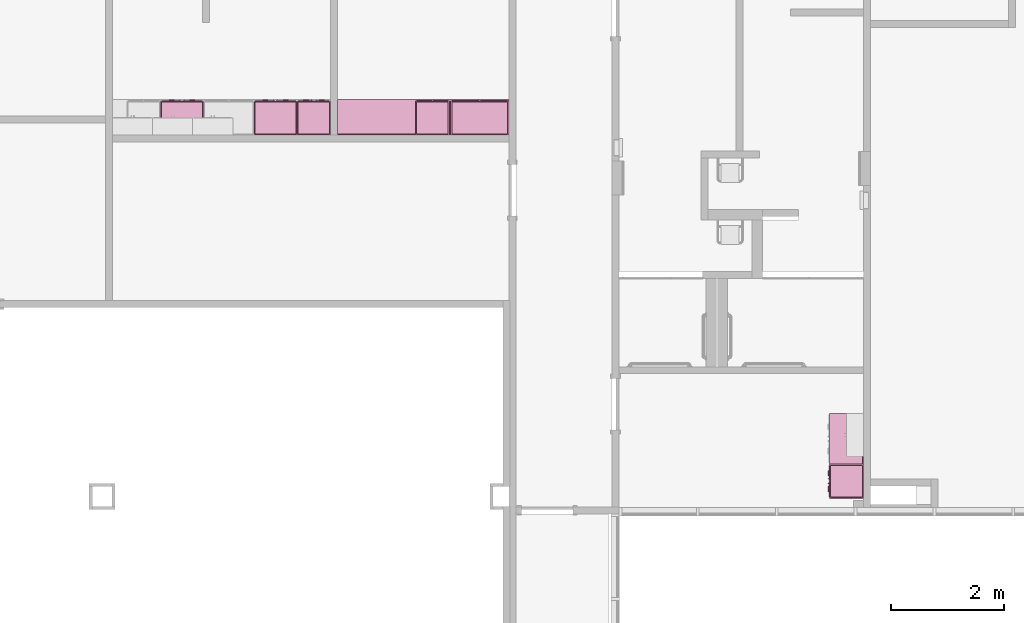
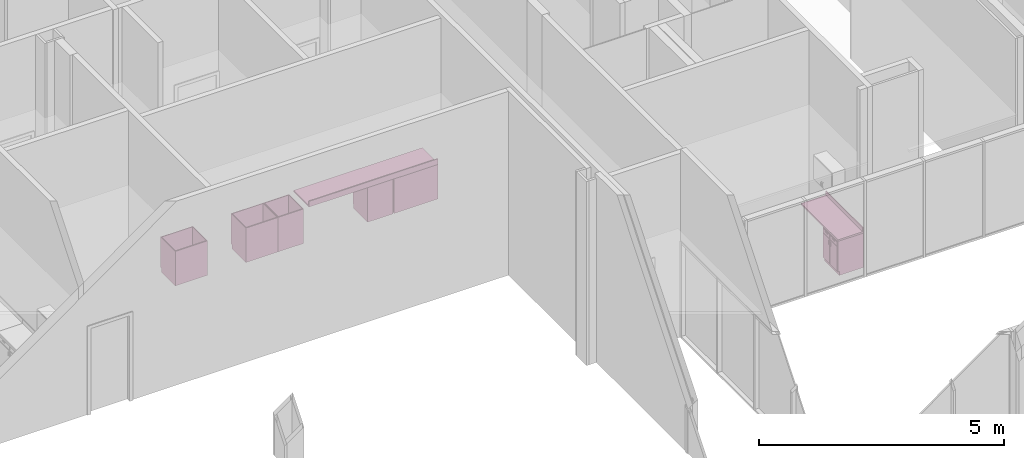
# One storey, part 39 of 45: 8 furnishings, 1 opening.
"""IFC2X3 building model written with IfcOpenShell, lengths in metres."""

from ifc_helpers import new_model, entity, si_unit, converted_unit, frame, frame_2d, origin, origin_2d_with_axis, place, context, project, spatial, polyline, circle_curve, parameter, trimmed, segment, composite_curve, rectangle, outline, extrude, face_set, surface_model, source, transform, mapped, type_object, type_shapes, element, save


model = new_model("IFC2X3")

# Units and contexts
model_context = context("Model", 3, precision=1e-09, world=origin())
plan_context = context("Plan", 3, precision=1e-09, world=origin())
ifc_project = project(units=[si_unit("LENGTHUNIT", "METRE"), si_unit("AREAUNIT", "SQUARE_METRE"), si_unit("VOLUMEUNIT", "CUBIC_METRE"), converted_unit("PLANEANGLEUNIT", "DEGREE", entity("IfcRatioMeasure", 0.01745329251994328), si_unit("PLANEANGLEUNIT", "RADIAN"), dimensions=[0, 0, 0, 0, 0, 0, 0]), si_unit("TIMEUNIT", "SECOND")], contexts=[model_context, plan_context])

# Site, building, storey, space
site_placement = place(None, origin())
site = spatial("IfcSite", under=ifc_project, at=site_placement, Name="Default", CompositionType="ELEMENT")
building_placement = place(site_placement, origin())
building = spatial("IfcBuilding", under=site, at=building_placement, CompositionType="ELEMENT")
storey_placement = place(building_placement, frame((0.0, 0.0, 4.570000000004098)))
storey = spatial("IfcBuildingStorey", under=building, at=storey_placement, Name="Second Floor", CompositionType="ELEMENT", Elevation=4.570000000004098)
space_1_placement = place(storey_placement, origin())
space_1 = spatial("IfcSpace", under=storey, at=space_1_placement, Name="2C22", CompositionType="ELEMENT", InteriorOrExteriorSpace="INTERNAL")

# Furnishing
furniture_type_1 = type_object("IfcFurnitureType", Name="600mm", AssemblyPlace="NOTDEFINED")
shared_shape_1 = source(origin(), model_context, "Body", "SurfaceModel", [
    surface_model("IfcFaceBasedSurfaceModel", [(0.5809499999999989, 0.0444500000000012, 0.86000000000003), (0.5809499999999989, 0.0444500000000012, 0.09999999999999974), (0.01905000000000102, 0.0444500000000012, 0.09999999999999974), (0.01905000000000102, 0.0444500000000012, 0.86000000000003), (0.5999999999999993, 0.02540000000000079, 0.8600000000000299), (0.0, 0.02540000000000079, 0.8600000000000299), (0.5999999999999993, 0.02540000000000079, 0.09999999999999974), (0.0, 0.02540000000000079, 0.0999999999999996), (0.01905000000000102, 0.6063499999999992, 0.86000000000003), (0.01905000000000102, 0.6063499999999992, 0.09999999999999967), (0.01905000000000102, 0.06040000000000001, 0.09999999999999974), (0.0, 0.6253999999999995, 0.8600000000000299), (0.0, 0.6254000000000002, 0.0), (0.0, 0.06040000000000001, 0.0), (0.0, 0.06040000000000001, 0.09999999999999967), (0.5809499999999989, 0.6063499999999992, 0.86000000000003), (0.5809499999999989, 0.6063499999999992, 0.09999999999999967), (0.5999999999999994, 0.6253999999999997, 0.8600000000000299), (0.5999999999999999, 0.6253999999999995, 0.0), (0.5809499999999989, 0.06040000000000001, 0.09999999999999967), (0.5999999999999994, 0.06040000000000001, 0.09999999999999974), (0.5999999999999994, 0.06040000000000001, 0.0), (0.2103250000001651, 0.0, 0.8155500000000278), (0.2103250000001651, 0.0, 0.8028500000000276), (0.1087250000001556, 0.0, 0.8028500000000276), (0.1087250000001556, 0.0, 0.8155500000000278), (0.4912750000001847, 0.0, 0.8155500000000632), (0.4912750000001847, 0.0, 0.8028500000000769), (0.3896750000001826, 0.0, 0.8028500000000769), (0.3896750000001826, 0.0, 0.8155500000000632), (0.2650750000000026, 0.0, 0.6822000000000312), (0.2650750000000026, 0.0, 0.5806000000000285), (0.2523750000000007, 0.0, 0.5806000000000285), (0.2523750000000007, 0.0, 0.6822000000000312), (0.3476249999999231, 0.0, 0.6822000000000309), (0.3476249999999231, 0.0, 0.5806000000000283), (0.3349249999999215, 0.0, 0.5806000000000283), (0.3349249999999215, 0.0, 0.6822000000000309), (0.2103250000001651, 0.0127000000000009, 0.8155500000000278), (0.2103250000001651, 0.0127000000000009, 0.8028500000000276), (0.1087250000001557, 0.01270000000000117, 0.8028500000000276), (0.1087250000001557, 0.01270000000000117, 0.8155500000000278), (0.4912750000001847, 0.01269999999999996, 0.8155500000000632), (0.4912750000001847, 0.01269999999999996, 0.8028500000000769), (0.3896750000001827, 0.01270000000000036, 0.8028500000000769), (0.3896750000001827, 0.01270000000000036, 0.8155500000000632), (0.2650750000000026, 0.01270000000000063, 0.6822000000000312), (0.2650750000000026, 0.01270000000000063, 0.5806000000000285), (0.2523750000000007, 0.01270000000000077, 0.5806000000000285), (0.2523750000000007, 0.01270000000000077, 0.6822000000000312), (0.3476249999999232, 0.0127000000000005, 0.6822000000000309), (0.3476249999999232, 0.0127000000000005, 0.5806000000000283), (0.3349249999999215, 0.0127000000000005, 0.5806000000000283), (0.3349249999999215, 0.0127000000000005, 0.6822000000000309), (0.2904749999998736, 0.01270000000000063, 0.8409500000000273), (0.2904749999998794, 0.01270000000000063, 0.7393500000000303), (0.01905000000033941, 0.01270000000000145, 0.7393500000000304), (0.01905000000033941, 0.01270000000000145, 0.8409500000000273), (0.5809500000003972, 0.01269999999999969, 0.8409500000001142), (0.5809500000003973, 0.01269999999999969, 0.7393500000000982), (0.3095249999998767, 0.0127000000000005, 0.7393500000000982), (0.309524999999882, 0.0127000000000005, 0.8409500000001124), (0.2904749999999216, 0.01270000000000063, 0.7203000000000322), (0.290474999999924, 0.01270000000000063, 0.1190499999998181), (0.01905000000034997, 0.01270000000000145, 0.1190499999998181), (0.01905000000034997, 0.01270000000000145, 0.7203000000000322), (0.5809500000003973, 0.01269999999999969, 0.7203000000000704), (0.5809500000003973, 0.01269999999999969, 0.1190499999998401), (0.3095249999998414, 0.0127000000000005, 0.1190499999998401), (0.3095249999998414, 0.0127000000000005, 0.7203000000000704), (0.2904749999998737, 0.02540000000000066, 0.8409500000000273), (0.2904749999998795, 0.02540000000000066, 0.7393500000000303), (0.01905000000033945, 0.02540000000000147, 0.7393500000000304), (0.01905000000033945, 0.02540000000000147, 0.8409500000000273), (0.5809500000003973, 0.02539999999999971, 0.8409500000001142), (0.5809500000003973, 0.02539999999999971, 0.7393500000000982), (0.3095249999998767, 0.02540000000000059, 0.7393500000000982), (0.309524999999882, 0.02540000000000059, 0.8409500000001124), (0.2904749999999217, 0.02540000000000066, 0.7203000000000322), (0.290474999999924, 0.02540000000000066, 0.1190499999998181), (0.01905000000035, 0.02540000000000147, 0.1190499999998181), (0.01905000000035, 0.02540000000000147, 0.7203000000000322), (0.5809500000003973, 0.02539999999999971, 0.7203000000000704), (0.5809500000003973, 0.02539999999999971, 0.1190499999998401), (0.3095249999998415, 0.02540000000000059, 0.1190499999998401), (0.3095249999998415, 0.02540000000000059, 0.7203000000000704), (0.580949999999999, 0.6063499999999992, 0.1190499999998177), (0.580949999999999, 0.04445000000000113, 0.1190499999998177), (0.01905000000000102, 0.04445000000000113, 0.1190499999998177), (0.01905000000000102, 0.6063499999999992, 0.1190499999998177), (0.580949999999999, 0.6063499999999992, 0.09999999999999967), (0.580949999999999, 0.04445000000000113, 0.09999999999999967), (0.01905000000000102, 0.04445000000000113, 0.09999999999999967)], [face_set([[[0, 1, 2, 3]], [[0, 4, 5, 3]], [[4, 6, 7, 5]], [[2, 1, 6, 7]], [[3, 8, 9, 10, 2]], [[5, 11, 8, 3]], [[7, 5, 11, 12, 13, 14]], [[2, 7, 14, 10]], [[8, 15, 16, 9]], [[11, 17, 15, 8]], [[12, 11, 17, 18]], [[1, 19, 16, 15, 0]], [[0, 15, 17, 4]], [[4, 6, 20, 21, 18, 17]], [[6, 1, 19, 20]], [[10, 9, 16, 19]], [[18, 21, 13, 12]], [[13, 14, 10, 19, 20, 21]]]), face_set([[[22, 23, 24, 25]], [[26, 27, 28, 29]], [[30, 31, 32, 33]], [[34, 35, 36, 37]], [[38, 39, 40, 41]], [[42, 43, 44, 45]], [[46, 47, 48, 49]], [[50, 51, 52, 53]], [[25, 41, 38, 22]], [[24, 40, 41, 25]], [[23, 24, 40, 39]], [[22, 23, 39, 38]], [[29, 45, 42, 26]], [[28, 44, 45, 29]], [[27, 28, 44, 43]], [[26, 27, 43, 42]], [[33, 49, 46, 30]], [[32, 48, 49, 33]], [[31, 32, 48, 47]], [[30, 31, 47, 46]], [[37, 53, 50, 34]], [[36, 52, 53, 37]], [[35, 36, 52, 51]], [[34, 35, 51, 50]]]), face_set([[[54, 55, 56, 57]], [[58, 59, 60, 61]], [[62, 63, 64, 65]], [[66, 67, 68, 69]], [[70, 71, 72, 73]], [[74, 75, 76, 77]], [[78, 79, 80, 81]], [[82, 83, 84, 85]], [[57, 73, 70, 54]], [[56, 57, 73, 72]], [[55, 56, 72, 71]], [[54, 55, 71, 70]], [[61, 77, 74, 58]], [[60, 76, 77, 61]], [[59, 60, 76, 75]], [[58, 59, 75, 74]], [[65, 81, 78, 62]], [[64, 65, 81, 80]], [[63, 64, 80, 79]], [[62, 63, 79, 78]], [[69, 85, 82, 66]], [[68, 84, 85, 69]], [[67, 68, 84, 83]], [[66, 67, 83, 82]]]), face_set([[[86, 87, 88, 89]], [[90, 91, 92, 9]], [[89, 86, 90, 9]], [[88, 89, 9, 92]], [[87, 91, 92, 88]], [[86, 87, 91, 90]]])]),
])
type_shapes(furniture_type_1, [shared_shape_1])
furnishing_1_placement = place(space_1_placement, frame((-27.77540000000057, 35.61499999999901, 0.0), z_axis=(0.0, 0.0, 1.0), x_axis=(0.0, -1.0, 0.0)))
element("IfcFurnishingElement", 1, at=furnishing_1_placement, inside=space_1, type_object=furniture_type_1, Name="M_Base Cabinet-Double Door & 2 Drawer:600mm:600mm", ObjectType="600mm", context=model_context, shape_type="MappedRepresentation", body=[
    mapped(shared_shape_1, transform((0.0, 0.0, 0.0), scale=1.0)),
])

# Space
space_2_placement = place(storey_placement, origin())
space_2 = spatial("IfcSpace", under=storey, at=space_2_placement, Name="2C10", CompositionType="ELEMENT", InteriorOrExteriorSpace="INTERNAL")

# Furnishing
furnishing_2_placement = place(space_2_placement, frame((-34.5000000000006, 42.08383871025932, 0.0), z_axis=(0.0, 0.0, 1.0), x_axis=(-1.0, 0.0, 0.0)))
element("IfcFurnishingElement", 2, at=furnishing_2_placement, inside=space_2, type_object=furniture_type_1, Name="M_Base Cabinet-Double Door & 2 Drawer:600mm:600mm", ObjectType="600mm", context=model_context, shape_type="MappedRepresentation", body=[
    mapped(shared_shape_1, transform((0.0, 0.0, 0.0), scale=1.0)),
])

# Space
space_3_placement = place(storey_placement, origin())
space_3 = spatial("IfcSpace", under=storey, at=space_3_placement, Name="2C12", CompositionType="ELEMENT", InteriorOrExteriorSpace="INTERNAL")

# Furnishings
furnishing_3_placement = place(space_3_placement, frame((-36.6040000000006, 42.08383871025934, 0.0), z_axis=(0.0, 0.0, 1.0), x_axis=(-1.0, 0.0, 0.0)))
element("IfcFurnishingElement", 3, at=furnishing_3_placement, inside=space_3, type_object=furniture_type_1, Name="M_Base Cabinet-Double Door & 2 Drawer:600mm:600mm", ObjectType="600mm", context=model_context, shape_type="MappedRepresentation", body=[
    mapped(shared_shape_1, transform((0.0, 0.0, 0.0), scale=1.0)),
])
furniture_type_2 = type_object("IfcFurnitureType", Name="760mm", AssemblyPlace="NOTDEFINED")
shared_shape_2 = source(origin(), model_context, "Body", "SurfaceModel", [
    surface_model("IfcFaceBasedSurfaceModel", [(0.7409499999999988, 0.04445000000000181, 0.86000000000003), (0.7409499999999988, 0.04445000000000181, 0.09999999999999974), (0.01905000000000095, 0.04445000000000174, 0.09999999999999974), (0.01905000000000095, 0.04445000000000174, 0.86000000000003), (0.7599999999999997, 0.02540000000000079, 0.8600000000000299), (0.0, 0.02540000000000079, 0.8600000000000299), (0.7599999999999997, 0.02540000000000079, 0.09999999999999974), (0.0, 0.02540000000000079, 0.0999999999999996), (0.01905000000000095, 0.6063499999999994, 0.86000000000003), (0.01905000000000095, 0.6063499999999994, 0.09999999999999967), (0.01905000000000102, 0.06040000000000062, 0.09999999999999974), (0.0, 0.6254000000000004, 0.8600000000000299), (0.0, 0.6254000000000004, 0.0), (0.0, 0.06040000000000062, 0.0), (0.0, 0.06040000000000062, 0.09999999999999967), (0.7409499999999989, 0.6063499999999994, 0.86000000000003), (0.7409499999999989, 0.6063499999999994, 0.09999999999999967), (0.7599999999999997, 0.6254000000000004, 0.8600000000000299), (0.7599999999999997, 0.6254000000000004, 0.0), (0.7409499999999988, 0.06040000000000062, 0.09999999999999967), (0.7599999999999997, 0.06040000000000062, 0.09999999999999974), (0.7599999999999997, 0.06040000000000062, 0.0), (0.2503250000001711, 0.0, 0.8155500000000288), (0.2503250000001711, 0.0, 0.8028500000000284), (0.1487250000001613, 0.0, 0.8028500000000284), (0.1487250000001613, 0.0, 0.8155500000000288), (0.6112750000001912, 0.0, 0.8155500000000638), (0.6112750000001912, 0.0, 0.8028500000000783), (0.509675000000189, 0.0, 0.8028500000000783), (0.509675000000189, 0.0, 0.8155500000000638), (0.3450750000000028, 0.0, 0.6822000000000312), (0.3450750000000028, 0.0, 0.5806000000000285), (0.3323750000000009, 0.0, 0.5806000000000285), (0.3323750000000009, 0.0, 0.6822000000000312), (0.4276249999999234, 0.0, 0.6822000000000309), (0.4276249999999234, 0.0, 0.5806000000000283), (0.4149249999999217, 0.0, 0.5806000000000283), (0.4149249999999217, 0.0, 0.6822000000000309), (0.2503250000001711, 0.01270000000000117, 0.8155500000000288), (0.2503250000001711, 0.01270000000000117, 0.8028500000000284), (0.1487250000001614, 0.01270000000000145, 0.8028500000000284), (0.1487250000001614, 0.01270000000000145, 0.8155500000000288), (0.6112750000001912, 0.01269999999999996, 0.8155500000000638), (0.6112750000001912, 0.01269999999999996, 0.8028500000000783), (0.5096750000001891, 0.01270000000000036, 0.8028500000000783), (0.5096750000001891, 0.01270000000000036, 0.8155500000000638), (0.3450750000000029, 0.0127000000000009, 0.6822000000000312), (0.3450750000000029, 0.0127000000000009, 0.5806000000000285), (0.3323750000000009, 0.0127000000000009, 0.5806000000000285), (0.3323750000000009, 0.0127000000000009, 0.6822000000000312), (0.4276249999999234, 0.01270000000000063, 0.6822000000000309), (0.4276249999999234, 0.01270000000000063, 0.5806000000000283), (0.4149249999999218, 0.01270000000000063, 0.5806000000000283), (0.4149249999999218, 0.01270000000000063, 0.6822000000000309), (0.3704749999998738, 0.01270000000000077, 0.8409500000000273), (0.3704749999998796, 0.01270000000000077, 0.7393500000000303), (0.01905000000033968, 0.01270000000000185, 0.7393500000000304), (0.01905000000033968, 0.01270000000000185, 0.8409500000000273), (0.7409500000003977, 0.01269999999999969, 0.8409500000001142), (0.7409500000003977, 0.01269999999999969, 0.7393500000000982), (0.3895249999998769, 0.01270000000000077, 0.7393500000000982), (0.3895249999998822, 0.01270000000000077, 0.8409500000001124), (0.3704749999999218, 0.01270000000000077, 0.7203000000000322), (0.3704749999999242, 0.01270000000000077, 0.1190499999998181), (0.01905000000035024, 0.01270000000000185, 0.1190499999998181), (0.01905000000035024, 0.01270000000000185, 0.7203000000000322), (0.7409500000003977, 0.01269999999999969, 0.7203000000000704), (0.7409500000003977, 0.01269999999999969, 0.1190499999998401), (0.3895249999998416, 0.01270000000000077, 0.1190499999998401), (0.3895249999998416, 0.01270000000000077, 0.7203000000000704), (0.3704749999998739, 0.02540000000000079, 0.8409500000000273), (0.3704749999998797, 0.02540000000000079, 0.7393500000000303), (0.01905000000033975, 0.02540000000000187, 0.7393500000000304), (0.01905000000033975, 0.02540000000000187, 0.8409500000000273), (0.7409500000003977, 0.02539999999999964, 0.8409500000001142), (0.7409500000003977, 0.02539999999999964, 0.7393500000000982), (0.3895249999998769, 0.02540000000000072, 0.7393500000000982), (0.3895249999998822, 0.02540000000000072, 0.8409500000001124), (0.3704749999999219, 0.02540000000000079, 0.7203000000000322), (0.3704749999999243, 0.02540000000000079, 0.1190499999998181), (0.01905000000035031, 0.02540000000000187, 0.1190499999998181), (0.01905000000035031, 0.02540000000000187, 0.7203000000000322), (0.7409500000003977, 0.02539999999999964, 0.7203000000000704), (0.7409500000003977, 0.02539999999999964, 0.1190499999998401), (0.3895249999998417, 0.02540000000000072, 0.1190499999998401), (0.3895249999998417, 0.02540000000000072, 0.7203000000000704), (0.7409499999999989, 0.6063499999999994, 0.1190499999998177), (0.7409499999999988, 0.04445000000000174, 0.1190499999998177), (0.01905000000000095, 0.04445000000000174, 0.1190499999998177), (0.01905000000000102, 0.6063499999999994, 0.1190499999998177), (0.7409499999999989, 0.04445000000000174, 0.09999999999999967), (0.01905000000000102, 0.04445000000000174, 0.09999999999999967), (0.01905000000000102, 0.6063499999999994, 0.09999999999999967)], [face_set([[[0, 1, 2, 3]], [[0, 4, 5, 3]], [[4, 6, 7, 5]], [[2, 1, 6, 7]], [[3, 8, 9, 10, 2]], [[5, 11, 8, 3]], [[7, 5, 11, 12, 13, 14]], [[2, 7, 14, 10]], [[8, 15, 16, 9]], [[11, 17, 15, 8]], [[12, 11, 17, 18]], [[1, 19, 16, 15, 0]], [[0, 15, 17, 4]], [[4, 6, 20, 21, 18, 17]], [[6, 1, 19, 20]], [[10, 9, 16, 19]], [[18, 21, 13, 12]], [[13, 14, 10, 19, 20, 21]]]), face_set([[[22, 23, 24, 25]], [[26, 27, 28, 29]], [[30, 31, 32, 33]], [[34, 35, 36, 37]], [[38, 39, 40, 41]], [[42, 43, 44, 45]], [[46, 47, 48, 49]], [[50, 51, 52, 53]], [[25, 41, 38, 22]], [[24, 40, 41, 25]], [[23, 24, 40, 39]], [[22, 23, 39, 38]], [[29, 45, 42, 26]], [[28, 44, 45, 29]], [[27, 28, 44, 43]], [[26, 27, 43, 42]], [[33, 49, 46, 30]], [[32, 48, 49, 33]], [[31, 32, 48, 47]], [[30, 31, 47, 46]], [[37, 53, 50, 34]], [[36, 52, 53, 37]], [[35, 36, 52, 51]], [[34, 35, 51, 50]]]), face_set([[[54, 55, 56, 57]], [[58, 59, 60, 61]], [[62, 63, 64, 65]], [[66, 67, 68, 69]], [[70, 71, 72, 73]], [[74, 75, 76, 77]], [[78, 79, 80, 81]], [[82, 83, 84, 85]], [[57, 73, 70, 54]], [[56, 57, 73, 72]], [[55, 56, 72, 71]], [[54, 55, 71, 70]], [[61, 77, 74, 58]], [[60, 76, 77, 61]], [[59, 60, 76, 75]], [[58, 59, 75, 74]], [[65, 81, 78, 62]], [[64, 65, 81, 80]], [[63, 64, 80, 79]], [[62, 63, 79, 78]], [[69, 85, 82, 66]], [[68, 84, 85, 69]], [[67, 68, 84, 83]], [[66, 67, 83, 82]]]), face_set([[[86, 87, 88, 89]], [[16, 90, 91, 92]], [[89, 86, 16, 92]], [[88, 89, 92, 91]], [[87, 90, 91, 88]], [[86, 87, 90, 16]]])]),
])
type_shapes(furniture_type_2, [shared_shape_2])
for number, where, z_axis, x_axis in (
    (4, (-38.86400000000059, 42.08383871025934, 0.0), (0.0, 0.0, 1.0), (-1.0, 0.0, 0.0)),
    (5, (-37.2040000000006, 42.08383871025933, 0.0), (0.0, 0.0, 1.0), (-1.0, 0.0, 0.0)),
):
    element("IfcFurnishingElement", number, at=place(space_3_placement, frame(where, z_axis=z_axis, x_axis=x_axis)), inside=space_3, type_object=furniture_type_2, Name="M_Base Cabinet-Double Door & 2 Drawer:760mm:760mm", ObjectType="760mm", context=model_context, shape_type="MappedRepresentation", body=[
        mapped(shared_shape_2, transform((0.0, 0.0, 0.0), scale=1.0)),
    ])
furniture_type_3 = type_object("IfcFurnitureType", Name="1030mm", AssemblyPlace="NOTDEFINED")
shared_shape_3 = source(origin(), model_context, "Body", "SurfaceModel", [
    surface_model("IfcFaceBasedSurfaceModel", [(1.010949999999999, 0.04445000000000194, 0.86000000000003), (1.010949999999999, 0.04445000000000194, 0.09999999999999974), (0.01905000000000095, 0.04445000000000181, 0.09999999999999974), (0.01905000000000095, 0.04445000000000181, 0.86000000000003), (1.03, 0.02540000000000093, 0.8600000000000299), (0.0, 0.02540000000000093, 0.8600000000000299), (1.03, 0.02540000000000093, 0.09999999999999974), (0.0, 0.025400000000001, 0.0999999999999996), (0.01905000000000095, 0.6063499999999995, 0.86000000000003), (0.01905000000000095, 0.6063499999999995, 0.09999999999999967), (0.01905000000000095, 0.06040000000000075, 0.09999999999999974), (0.0, 0.6254000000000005, 0.8600000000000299), (0.0, 0.6254000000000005, 0.0), (0.0, 0.06040000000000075, 0.0), (0.0, 0.06040000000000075, 0.09999999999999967), (1.010949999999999, 0.6063499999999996, 0.86000000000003), (1.010949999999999, 0.6063499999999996, 0.09999999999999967), (1.03, 0.6254000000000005, 0.8600000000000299), (1.03, 0.6254000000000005, 0.0), (1.010949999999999, 0.06040000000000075, 0.09999999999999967), (1.03, 0.06040000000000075, 0.09999999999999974), (1.03, 0.06040000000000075, 0.0), (0.3178250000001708, 0.0, 0.8155500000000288), (0.3178250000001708, 0.0, 0.8028500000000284), (0.2162250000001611, 0.0, 0.8028500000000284), (0.2162250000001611, 0.0, 0.8155500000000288), (0.8137750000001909, 0.0, 0.8155500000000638), (0.8137750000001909, 0.0, 0.8028500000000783), (0.7121750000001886, 0.0, 0.8028500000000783), (0.7121750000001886, 0.0, 0.8155500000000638), (0.4800750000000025, 0.0, 0.6822000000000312), (0.4800750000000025, 0.0, 0.5806000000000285), (0.4673750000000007, 0.0, 0.5806000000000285), (0.4673750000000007, 0.0, 0.6822000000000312), (0.5626249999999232, 0.0, 0.6822000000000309), (0.5626249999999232, 0.0, 0.5806000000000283), (0.5499249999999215, 0.0, 0.5806000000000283), (0.5499249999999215, 0.0, 0.6822000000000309), (0.3178250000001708, 0.01270000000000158, 0.8155500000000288), (0.3178250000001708, 0.01270000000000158, 0.8028500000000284), (0.2162250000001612, 0.01270000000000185, 0.8028500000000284), (0.2162250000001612, 0.01270000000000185, 0.8155500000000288), (0.8137750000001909, 0.01269999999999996, 0.8155500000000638), (0.8137750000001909, 0.01269999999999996, 0.8028500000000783), (0.7121750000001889, 0.01270000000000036, 0.8028500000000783), (0.7121750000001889, 0.01270000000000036, 0.8155500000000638), (0.4800750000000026, 0.01270000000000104, 0.6822000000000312), (0.4800750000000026, 0.01270000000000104, 0.5806000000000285), (0.4673750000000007, 0.01270000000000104, 0.5806000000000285), (0.4673750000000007, 0.01270000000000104, 0.6822000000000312), (0.5626249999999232, 0.01270000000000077, 0.6822000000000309), (0.5626249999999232, 0.01270000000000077, 0.5806000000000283), (0.5499249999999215, 0.01270000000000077, 0.5806000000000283), (0.5499249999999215, 0.01270000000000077, 0.6822000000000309), (0.5054749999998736, 0.0127000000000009, 0.8409500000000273), (0.5054749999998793, 0.0127000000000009, 0.7393500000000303), (0.01905000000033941, 0.01270000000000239, 0.7393500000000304), (0.01905000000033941, 0.01270000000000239, 0.8409500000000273), (1.010950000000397, 0.01269999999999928, 0.8409500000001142), (1.010950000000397, 0.01269999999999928, 0.7393500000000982), (0.5245249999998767, 0.01270000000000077, 0.7393500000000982), (0.5245249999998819, 0.01270000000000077, 0.8409500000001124), (0.5054749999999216, 0.0127000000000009, 0.7203000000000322), (0.505474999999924, 0.0127000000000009, 0.1190499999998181), (0.01905000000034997, 0.01270000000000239, 0.1190499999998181), (0.01905000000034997, 0.01270000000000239, 0.7203000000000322), (1.010950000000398, 0.01269999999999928, 0.7203000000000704), (1.010950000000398, 0.01269999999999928, 0.1190499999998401), (0.5245249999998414, 0.01270000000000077, 0.1190499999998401), (0.5245249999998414, 0.01270000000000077, 0.7203000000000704), (0.5054749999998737, 0.02540000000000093, 0.8409500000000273), (0.5054749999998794, 0.02540000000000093, 0.7393500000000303), (0.01905000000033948, 0.02540000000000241, 0.7393500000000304), (0.01905000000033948, 0.02540000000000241, 0.8409500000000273), (1.010950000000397, 0.02539999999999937, 0.8409500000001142), (1.010950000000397, 0.02539999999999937, 0.7393500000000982), (0.5245249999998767, 0.02540000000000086, 0.7393500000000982), (0.524524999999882, 0.02540000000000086, 0.8409500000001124), (0.5054749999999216, 0.02540000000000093, 0.7203000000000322), (0.5054749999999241, 0.02540000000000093, 0.1190499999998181), (0.01905000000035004, 0.02540000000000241, 0.1190499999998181), (0.01905000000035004, 0.02540000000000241, 0.7203000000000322), (1.010950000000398, 0.02539999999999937, 0.7203000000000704), (1.010950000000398, 0.02539999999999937, 0.1190499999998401), (0.5245249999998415, 0.02540000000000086, 0.1190499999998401), (0.5245249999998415, 0.02540000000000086, 0.7203000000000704), (1.010949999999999, 0.6063499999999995, 0.1190499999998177), (1.010949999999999, 0.04445000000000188, 0.1190499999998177), (0.01905000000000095, 0.04445000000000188, 0.1190499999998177), (0.01905000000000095, 0.6063499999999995, 0.1190499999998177), (1.010949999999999, 0.6063499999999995, 0.09999999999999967), (1.010949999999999, 0.04445000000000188, 0.09999999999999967), (0.01905000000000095, 0.04445000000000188, 0.09999999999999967)], [face_set([[[0, 1, 2, 3]], [[0, 4, 5, 3]], [[4, 6, 7, 5]], [[2, 1, 6, 7]], [[3, 8, 9, 10, 2]], [[5, 11, 8, 3]], [[7, 5, 11, 12, 13, 14]], [[2, 7, 14, 10]], [[8, 15, 16, 9]], [[11, 17, 15, 8]], [[12, 11, 17, 18]], [[1, 19, 16, 15, 0]], [[0, 15, 17, 4]], [[4, 6, 20, 21, 18, 17]], [[6, 1, 19, 20]], [[10, 9, 16, 19]], [[18, 21, 13, 12]], [[13, 14, 10, 19, 20, 21]]]), face_set([[[22, 23, 24, 25]], [[26, 27, 28, 29]], [[30, 31, 32, 33]], [[34, 35, 36, 37]], [[38, 39, 40, 41]], [[42, 43, 44, 45]], [[46, 47, 48, 49]], [[50, 51, 52, 53]], [[25, 41, 38, 22]], [[24, 40, 41, 25]], [[23, 24, 40, 39]], [[22, 23, 39, 38]], [[29, 45, 42, 26]], [[28, 44, 45, 29]], [[27, 28, 44, 43]], [[26, 27, 43, 42]], [[33, 49, 46, 30]], [[32, 48, 49, 33]], [[31, 32, 48, 47]], [[30, 31, 47, 46]], [[37, 53, 50, 34]], [[36, 52, 53, 37]], [[35, 36, 52, 51]], [[34, 35, 51, 50]]]), face_set([[[54, 55, 56, 57]], [[58, 59, 60, 61]], [[62, 63, 64, 65]], [[66, 67, 68, 69]], [[70, 71, 72, 73]], [[74, 75, 76, 77]], [[78, 79, 80, 81]], [[82, 83, 84, 85]], [[57, 73, 70, 54]], [[56, 57, 73, 72]], [[55, 56, 72, 71]], [[54, 55, 71, 70]], [[61, 77, 74, 58]], [[60, 76, 77, 61]], [[59, 60, 76, 75]], [[58, 59, 75, 74]], [[65, 81, 78, 62]], [[64, 65, 81, 80]], [[63, 64, 80, 79]], [[62, 63, 79, 78]], [[69, 85, 82, 66]], [[68, 84, 85, 69]], [[67, 68, 84, 83]], [[66, 67, 83, 82]]]), face_set([[[86, 87, 88, 89]], [[90, 91, 92, 9]], [[89, 86, 90, 9]], [[88, 89, 9, 92]], [[87, 91, 92, 88]], [[86, 87, 91, 90]]])]),
])
type_shapes(furniture_type_3, [shared_shape_3])
furnishing_4_placement = place(space_2_placement, frame((-33.44450000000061, 42.08383871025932, 0.0), z_axis=(0.0, 0.0, 1.0), x_axis=(-1.0, 0.0, 0.0)))
element("IfcFurnishingElement", 6, at=furnishing_4_placement, inside=space_2, type_object=furniture_type_3, Name="M_Base Cabinet-Double Door & 2 Drawer:1030mm:1030mm", ObjectType="1030mm", context=model_context, shape_type="MappedRepresentation", body=[
    mapped(shared_shape_3, transform((0.0, 0.0, 0.0), scale=1.0)),
])
furniture_type_4 = type_object("IfcFurnitureType", Name="600mm Depth", AssemblyPlace="NOTDEFINED")
shared_shape_4 = source(origin(), model_context, "Body", "SweptSolid", [
    extrude(rectangle(XDim=0.01905000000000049, YDim=1.506438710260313, at=origin_2d_with_axis()), frame((-0.4472429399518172, -0.009525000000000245, 0.9000000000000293), z_axis=(0.0, 0.0, 1.0), x_axis=(0.0, -1.0, 0.0)), (0.0, 0.0, 1.0), 0.1016000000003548),
    extrude(rectangle(XDim=1.506438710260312, YDim=0.5999999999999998, at=origin_2d_with_axis()), frame((-0.4472429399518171, -0.2999999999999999, 0.8600000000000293), z_axis=(0.0, 0.0, 1.0), x_axis=(-1.0, 0.0, 0.0)), (0.0, 0.0, 1.0), 0.04000000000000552),
])
type_shapes(furniture_type_4, [shared_shape_4])
furnishing_5_placement = place(space_1_placement, frame((-27.15000000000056, 35.31597641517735, 0.0), z_axis=(0.0, 0.0, 1.0), x_axis=(0.0, -1.0, 0.0)))
element("IfcFurnishingElement", 7, at=furnishing_5_placement, inside=space_1, type_object=furniture_type_4, Name="M_Counter Top:600mm Depth:600mm Depth", ObjectType="600mm Depth", context=model_context, shape_type="MappedRepresentation", body=[
    mapped(shared_shape_4, transform((0.0, 0.0, 0.0), scale=1.0)),
])

# Furnishing, opening
furniture_type_5 = type_object("IfcFurnitureType", Name="600mm Depth", AssemblyPlace="NOTDEFINED")
shared_shape_5 = source(origin(), model_context, "Body", "SweptSolid", [
    extrude(outline(polyline([(-0.0605333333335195, -0.2146833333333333), (0.08106666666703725, -0.2146833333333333), (0.08106666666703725, -0.1956333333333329), (-0.02053333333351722, -0.1956333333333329), (-0.02053333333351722, 0.4103166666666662), (-0.0605333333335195, 0.4103166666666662), (-0.0605333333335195, -0.2146833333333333)])), frame((-1.200462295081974, -0.2146833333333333, 0.920533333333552), z_axis=(1.0, 0.0, 0.0), x_axis=(0.0, 0.0, 1.0)), (0.0, 0.0, 1.0), 3.035999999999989),
])
type_shapes(furniture_type_5, [shared_shape_5])
furnishing_6_placement = place(space_2_placement, frame((-34.64446229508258, 41.45843871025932, 0.0), z_axis=(0.0, 0.0, 1.0), x_axis=(-1.0, 0.0, 0.0)))
furnishing_6 = element("IfcFurnishingElement", 8, at=furnishing_6_placement, inside=space_2, type_object=furniture_type_5, Name="M_Counter Top w Sink Hole:600mm Depth:600mm Depth", ObjectType="600mm Depth", context=model_context, shape_type="MappedRepresentation", body=[
    mapped(shared_shape_5, transform((0.0, 0.0, 0.0), scale=1.0)),
])
opening_placement = place(space_2_placement, frame((-34.64446229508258, 41.45843871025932, 0.0), z_axis=(0.0, 0.0, 1.0), x_axis=(-1.0, 0.0, 0.0)))
element("IfcOpeningElement", 9, at=opening_placement, cuts=furnishing_6, Name="M_Counter Top w Sink Hole:600mm Depth:600mm Depth:1", ObjectType="Opening", context=model_context, shape_type="SweptSolid", body=[
    extrude(outline(composite_curve([segment(polyline([(-0.2554000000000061, -0.2017000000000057), (0.2553999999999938, -0.2017000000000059)]), True, "CONTINUOUS"), segment(trimmed(circle_curve(frame_2d((0.2553999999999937, -0.1508999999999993), x_axis=(1.0, 0.0)), 0.05080000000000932), [parameter(270.0000000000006)], [parameter(1.068666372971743e-12)], True, "PARAMETER"), True, "CONTINUOUS"), segment(polyline([(0.306200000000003, -0.1508999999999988), (0.3062000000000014, 0.1509000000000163)]), True, "CONTINUOUS"), segment(trimmed(circle_curve(frame_2d((0.2554000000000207, 0.1509000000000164), x_axis=(1.0, 0.0)), 0.05079999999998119), [parameter(1.017777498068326e-13)], [parameter(90.00000000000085)], True, "PARAMETER"), True, "CONTINUOUS"), segment(polyline([(0.2554000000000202, 0.2016999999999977), (-0.2554000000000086, 0.2016999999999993)]), True, "CONTINUOUS"), segment(trimmed(circle_curve(frame_2d((-0.2554000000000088, 0.1509000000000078), x_axis=(1.0, 0.0)), 0.0507999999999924), [parameter(90.00000000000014)], [parameter(179.9999999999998)], True, "PARAMETER"), True, "CONTINUOUS"), segment(polyline([(-0.3062000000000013, 0.1509000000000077), (-0.3062000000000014, -0.1509000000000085)]), True, "CONTINUOUS"), segment(trimmed(circle_curve(frame_2d((-0.2554000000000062, -0.1509000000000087), x_axis=(1.0, 0.0)), 0.05079999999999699), [parameter(179.9999999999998)], [parameter(269.9999999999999)], True, "PARAMETER"), True, "CONTINUOUS")], self_intersect=False)), frame((-0.1455377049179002, 0.2890000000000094, -3.670000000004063), z_axis=(0.0, 0.0, -1.0), x_axis=(-1.0, 0.0, 0.0)), (0.0, 0.0, 1.0), 0.04000000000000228),
])

save(model, "model.ifc")
